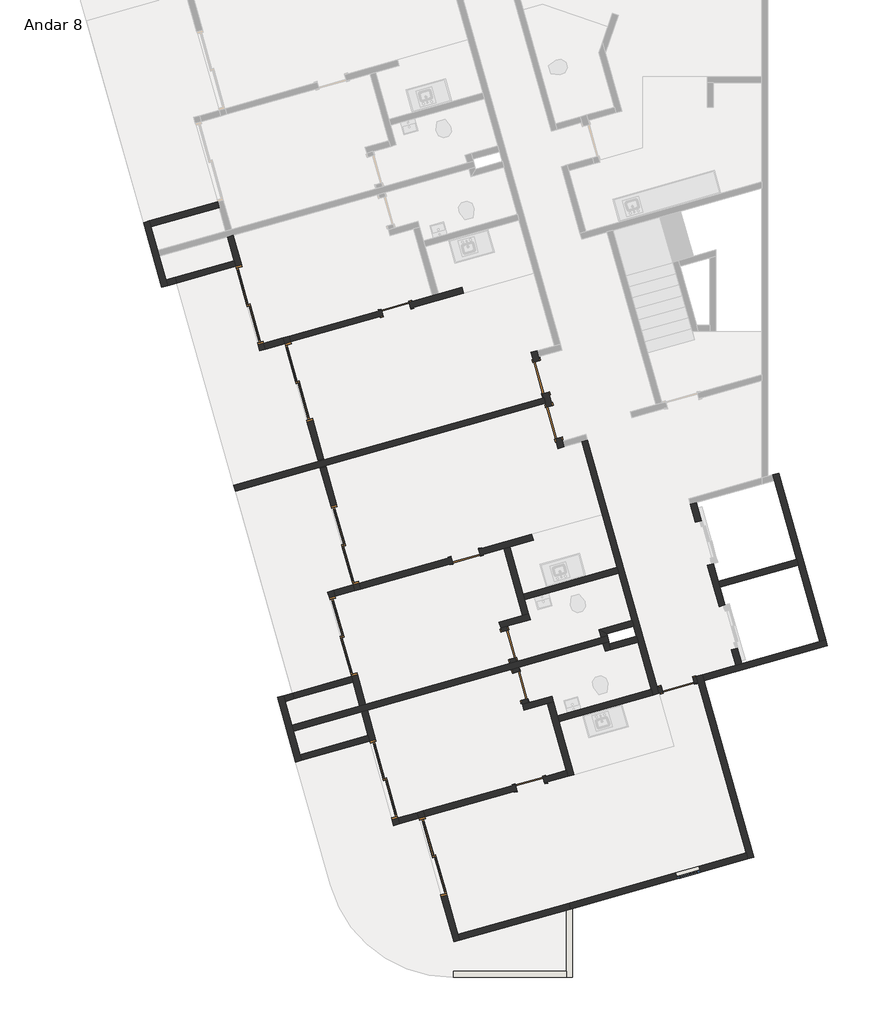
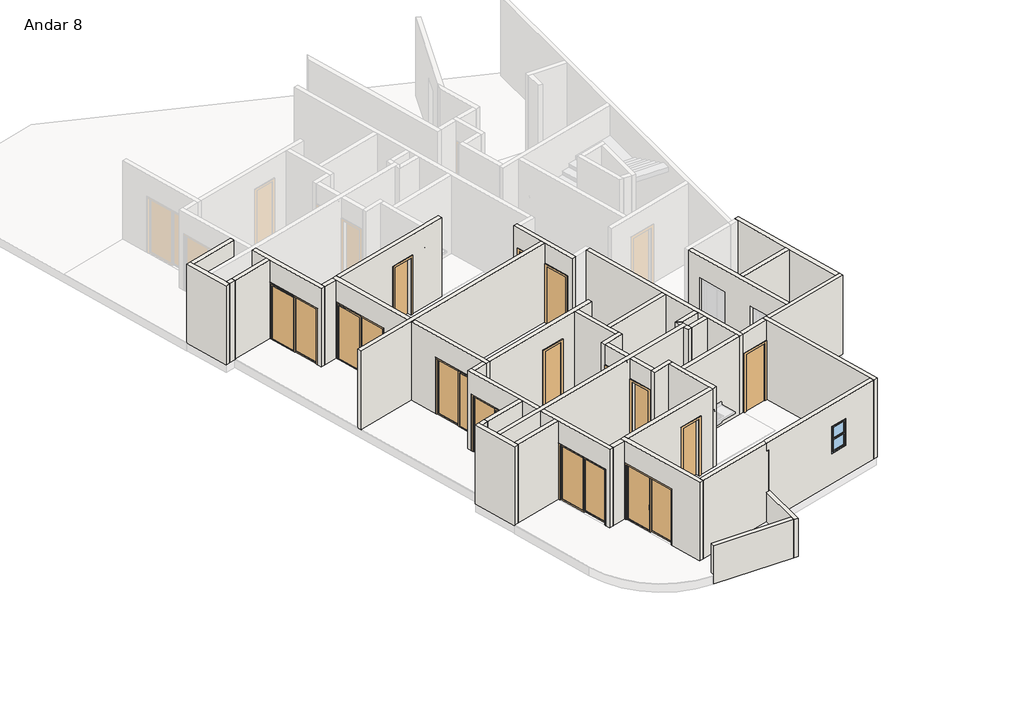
# One storey, part 1 of 3: 46 walls, 14 doors, 1 window.
"""IFC4 building model written with IfcOpenShell, lengths in millimetres."""

from ifc_helpers import new_model, si_unit, frame, origin, place, context, project, spatial, polyline, outline, extrude, faceted_brep, transform, mapped, element, save
from components import p2_80cm_9d4be4ef, p2_80cm_083652d6, p3_70cm_ef4d15e3, p3_70cm_0a698c7c, p4_correr_200cm_eaaa0877, p4_correr_200cm_830b8f20, bx_60cm_cef95a5c

model = new_model("IFC4")

# Units and contexts
model_context = context("Model", 3, world=origin())
ifc_project = project(units=[si_unit("LENGTHUNIT", "METRE", prefix="MILLI")], contexts=[model_context])

# Site, building, storey
site = spatial("IfcSite", under=ifc_project)
building = spatial("IfcBuilding", under=site)
storey = spatial("IfcBuildingStorey", under=building, Name="Andar 8", Elevation=73950.0)

# Doors
placement = place(None, origin())
p2_80cm_shape = p2_80cm_9d4be4ef(model_context)
element("IfcDoor", 1, ObjectType="M_Folha única1 : P2 - 80CM", at=placement, inside=storey, context=model_context, shape_type="MappedRepresentation", body=[
    mapped(p2_80cm_shape, transform((-80566.3456776, 19693.5423602, 73950.0), x_axis=(0.2717679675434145, -0.9623628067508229, 0.0), y_axis=(0.9623628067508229, 0.2717679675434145, 0.0), z_axis=(0.0, 0.0, 1.0))),
])
element("IfcDoor", 2, ObjectType="M_Folha única1 : P2 - 80CM", at=placement, inside=storey, context=model_context, shape_type="MappedRepresentation", body=[
    mapped(p2_80cm_shape, transform((-77213.6668366, 12144.847648, 73950.0), x_axis=(0.9623628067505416, 0.2717679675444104, 0.0), y_axis=(-0.2717679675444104, 0.9623628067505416, 0.0), z_axis=(0.0, 0.0, 1.0))),
])
p2_80cm_2_shape = p2_80cm_083652d6(model_context)
element("IfcDoor", 3, ObjectType="M_Folha única1 : P2 - 80CM", at=placement, inside=storey, context=model_context, shape_type="MappedRepresentation", body=[
    mapped(p2_80cm_2_shape, transform((-80253.8125149, 18586.8251325, 73950.0), x_axis=(-0.2717679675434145, 0.9623628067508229, 0.0), y_axis=(-0.9623628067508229, -0.2717679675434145, 0.0), z_axis=(0.0, 0.0, 1.0))),
])
p3_70cm_shape = p3_70cm_ef4d15e3(model_context)
element("IfcDoor", 4, ObjectType="M_Folha única1 : P3 - 70CM", at=placement, inside=storey, context=model_context, shape_type="MappedRepresentation", body=[
    mapped(p3_70cm_shape, transform((-84129.1775441, 21363.1168842, 73950.0), x_axis=(0.9623628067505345, 0.27176796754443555, 0.0), y_axis=(-0.27176796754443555, 0.9623628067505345, 0.0), z_axis=(0.0, 0.0, 1.0))),
])
element("IfcDoor", 5, ObjectType="M_Folha única1 : P3 - 70CM", at=placement, inside=storey, context=model_context, shape_type="MappedRepresentation", body=[
    mapped(p3_70cm_shape, transform((-80840.7851368, 9718.5269225, 73950.0), x_axis=(0.9623628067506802, 0.2717679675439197, 0.0), y_axis=(-0.2717679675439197, 0.9623628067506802, 0.0), z_axis=(0.0, 0.0, 1.0))),
])
element("IfcDoor", 6, ObjectType="M_Folha única1 : P3 - 70CM", at=placement, inside=storey, context=model_context, shape_type="MappedRepresentation", body=[
    mapped(p3_70cm_shape, transform((-81362.5862327, 13130.1209218, 73950.0), x_axis=(0.27176796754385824, -0.9623628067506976, 0.0), y_axis=(0.9623628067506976, 0.27176796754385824, 0.0), z_axis=(0.0, 0.0, 1.0))),
])
p3_70cm_2_shape = p3_70cm_0a698c7c(model_context)
element("IfcDoor", 7, ObjectType="M_Folha única1 : P3 - 70CM", at=placement, inside=storey, context=model_context, shape_type="MappedRepresentation", body=[
    mapped(p3_70cm_2_shape, transform((-81077.2298668, 12119.6399747, 73950.0), x_axis=(-0.27176796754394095, 0.9623628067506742, 0.0), y_axis=(-0.9623628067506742, -0.27176796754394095, 0.0), z_axis=(0.0, 0.0, 1.0))),
])
element("IfcDoor", 8, ObjectType="M_Folha única1 : P3 - 70CM", at=placement, inside=storey, context=model_context, shape_type="MappedRepresentation", body=[
    mapped(p3_70cm_2_shape, transform((-82417.0393485, 15300.2312016, 73950.0), x_axis=(0.9623628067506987, 0.2717679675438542, 0.0), y_axis=(-0.2717679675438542, 0.9623628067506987, 0.0), z_axis=(0.0, 0.0, 1.0))),
])
p4_correr_200cm_shape = p4_correr_200cm_eaaa0877(model_context)
element("IfcDoor", 9, ObjectType="Porta de correr dupla envidraçada sem revestimento : P4 - CORRER - 200CM", at=placement, inside=storey, context=model_context, shape_type="MappedRepresentation", body=[
    mapped(p4_correr_200cm_shape, transform((-86511.4049952, 19573.3416554, 73950.0), x_axis=(0.2717679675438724, -0.9623628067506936, 0.0), y_axis=(0.9623628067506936, 0.2717679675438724, 0.0), z_axis=(0.0, 0.0, 1.0))),
])
element("IfcDoor", 10, ObjectType="Porta de correr dupla envidraçada sem revestimento : P4 - CORRER - 200CM", at=placement, inside=storey, context=model_context, shape_type="MappedRepresentation", body=[
    mapped(p4_correr_200cm_shape, transform((-87717.4207223, 21466.8516126, 73950.0), x_axis=(0.2717679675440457, -0.9623628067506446, 0.0), y_axis=(0.9623628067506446, 0.2717679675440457, 0.0), z_axis=(0.0, 0.0, 1.0))),
])
element("IfcDoor", 11, ObjectType="Porta de correr dupla envidraçada sem revestimento : P4 - CORRER - 200CM", at=placement, inside=storey, context=model_context, shape_type="MappedRepresentation", body=[
    mapped(p4_correr_200cm_shape, transform((-84429.028315, 9822.2616509, 73950.0), x_axis=(-0.27176796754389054, 0.9623628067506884, 0.0), y_axis=(-0.9623628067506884, -0.27176796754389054, 0.0), z_axis=(0.0, 0.0, 1.0))),
])
element("IfcDoor", 12, ObjectType="Porta de correr dupla envidraçada sem revestimento : P4 - CORRER - 200CM", at=placement, inside=storey, context=model_context, shape_type="MappedRepresentation", body=[
    mapped(p4_correr_200cm_shape, transform((-83223.012588, 7928.7516937, 73950.0), x_axis=(-0.2717679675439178, 0.9623628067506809, 0.0), y_axis=(-0.9623628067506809, -0.2717679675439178, 0.0), z_axis=(0.0, 0.0, 1.0))),
])
p4_correr_200cm_2_shape = p4_correr_200cm_830b8f20(model_context)
element("IfcDoor", 13, ObjectType="Porta de correr dupla envidraçada sem revestimento : P4 - CORRER - 200CM", at=placement, inside=storey, context=model_context, shape_type="MappedRepresentation", body=[
    mapped(p4_correr_200cm_2_shape, transform((-85383.5679299, 15579.5360073, 73950.0), x_axis=(-0.2717679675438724, 0.9623628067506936, 0.0), y_axis=(-0.9623628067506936, -0.2717679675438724, 0.0), z_axis=(0.0, 0.0, 1.0))),
])
element("IfcDoor", 14, ObjectType="Porta de correr dupla envidraçada sem revestimento : P4 - CORRER - 200CM", at=placement, inside=storey, context=model_context, shape_type="MappedRepresentation", body=[
    mapped(p4_correr_200cm_2_shape, transform((-85420.9813965, 13334.8858955, 73950.0), x_axis=(-0.27176796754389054, 0.9623628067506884, 0.0), y_axis=(-0.9623628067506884, -0.27176796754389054, 0.0), z_axis=(0.0, 0.0, 1.0))),
])

# Walls
element("IfcWall", 15, ObjectType="Básica .15 - Externa", at=placement, inside=storey, context=model_context, shape_type="Brep", body=[
    faceted_brep([(-75344.9919691, 7919.3931149, 73950.0), (-76567.7484146, 12249.3196164, 73950.0), (-76608.5136097, 12393.6740374, 73950.0), (-76608.5136097, 12393.6740374, 76850.0), (-76567.7484146, 12249.3196164, 76850.0), (-75344.9919691, 7919.3931149, 76850.0), (-75489.3463901, 7878.6279198, 73950.0), (-75489.3463901, 7878.6279198, 76850.0), (-75530.1115852, 8022.9823408, 76850.0), (-76712.1028356, 12208.5544213, 76850.0), (-76752.8680308, 12352.9088423, 76850.0), (-76752.8680308, 12352.9088423, 73950.0), (-76712.1028356, 12208.5544213, 73950.0), (-75530.1115852, 8022.9823408, 73950.0)], [[[0, 1, 2, 3, 4, 5]], [[6, 7, 8, 9, 10, 11, 12, 13]], [[2, 1, 0, 6, 13, 12, 11]], [[5, 4, 3, 10, 9, 8, 7]], [[0, 5, 7, 6]], [[3, 2, 11, 10]]]),
])
element("IfcWall", 16, ObjectType="Básica .15 -  Interna", at=placement, inside=storey, context=model_context, shape_type="Brep", body=[
    faceted_brep([(-80529.815701, 19288.21464, 73950.0), (-80502.6389043, 19191.9783593, 73950.0), (-80461.8737092, 19047.6239383, 73950.0), (-80434.6969124, 18951.3876576, 73950.0), (-80434.6969124, 18951.3876576, 76050.0), (-80217.2825384, 18181.4974122, 76050.0), (-80217.2825384, 18181.4974122, 73950.0), (-80149.3405465, 17940.9067105, 73950.0), (-80149.3405465, 17940.9067105, 76850.0), (-80461.8737092, 19047.6239383, 76850.0), (-80502.6389043, 19191.9783593, 76850.0), (-80815.172067, 20298.695587, 76850.0), (-80815.172067, 20298.695587, 73950.0), (-80747.2300751, 20058.1048854, 73950.0), (-80747.2300751, 20058.1048854, 76050.0), (-80529.815701, 19288.21464, 76050.0), (-80290.3424914, 18992.1528527, 76050.0), (-80290.3424914, 18992.1528527, 73950.0), (-80385.46128, 19328.9798351, 73950.0), (-80385.46128, 19328.9798351, 76050.0), (-80602.8756541, 20098.8700805, 76050.0), (-80602.8756541, 20098.8700805, 73950.0), (-80630.0524508, 20195.1063612, 73950.0), (-80670.817646, 20339.4607822, 73950.0), (-80670.817646, 20339.4607822, 76850.0), (-80630.0524508, 20195.1063612, 76850.0), (-80045.7513206, 18126.0263266, 76850.0), (-80004.9861255, 17981.6719056, 76850.0), (-80004.9861255, 17981.6719056, 73950.0), (-80045.7513206, 18126.0263266, 73950.0), (-80072.9281174, 18222.2626073, 73950.0), (-80072.9281174, 18222.2626073, 76050.0)], [[[0, 1, 2, 3, 4, 5, 6, 7, 8, 9, 10, 11, 12, 13, 14, 15]], [[16, 17, 18, 19, 20, 21, 22, 23, 24, 25, 26, 27, 28, 29, 30, 31]], [[13, 12, 23, 22, 21]], [[18, 17, 3, 2, 1, 0]], [[30, 29, 28, 7, 6]], [[11, 10, 9, 8, 27, 26, 25, 24]], [[12, 11, 24, 23]], [[8, 7, 28, 27]], [[19, 18, 0, 15]], [[20, 19, 15, 14]], [[21, 20, 14, 13]], [[4, 3, 17, 16]], [[5, 4, 16, 31]], [[6, 5, 31, 30]]]),
])
element("IfcWall", 17, ObjectType="Básica .15 -  Interna", at=placement, inside=storey, context=model_context, shape_type="Brep", body=[
    faceted_brep([(-79571.9228624, 18103.967491, 73950.0), (-78702.2653663, 15024.4065094, 73950.0), (-78661.5001712, 14880.0520884, 73950.0), (-78335.3786101, 13725.2167203, 73950.0), (-78294.613415, 13580.8622993, 73950.0), (-78226.6714231, 13340.2715976, 73950.0), (-78185.906228, 13195.9171766, 73950.0), (-77818.8200634, 11896.0212586, 73950.0), (-77818.8200634, 11896.0212586, 76850.0), (-78185.906228, 13195.9171766, 76850.0), (-78226.6714231, 13340.2715976, 76850.0), (-78294.613415, 13580.8622993, 76850.0), (-78335.3786101, 13725.2167203, 76850.0), (-78661.5001712, 14880.0520884, 76850.0), (-78702.2653663, 15024.4065094, 76850.0), (-79571.9228624, 18103.967491, 76850.0), (-79427.5684414, 18144.7326862, 73950.0), (-79427.5684414, 18144.7326862, 76850.0), (-77715.2308375, 12081.1408747, 76850.0), (-77674.4656424, 11936.7864537, 76850.0), (-77674.4656424, 11936.7864537, 73950.0), (-77715.2308375, 12081.1408747, 73950.0)], [[[0, 1, 2, 3, 4, 5, 6, 7, 8, 9, 10, 11, 12, 13, 14, 15]], [[16, 17, 18, 19, 20, 21]], [[7, 6, 5, 4, 3, 2, 1, 0, 16, 21, 20]], [[15, 14, 13, 12, 11, 10, 9, 8, 19, 18, 17]], [[0, 15, 17, 16]], [[8, 7, 20, 19]]]),
])
element("IfcWall", 18, ObjectType="Básica .15 -  Interna", at=placement, inside=storey, context=model_context, shape_type="Brep", body=[
    faceted_brep([(-85017.5646639, 11630.3683862, 76850.0), (-85180.6254444, 12207.7860702, 76850.0), (-85221.3906395, 12352.1404912, 76850.0), (-85805.6917697, 14421.2205257, 76850.0), (-85805.6917697, 14421.2205257, 73950.0), (-85764.9265746, 14276.8661047, 73950.0), (-85764.9265746, 14276.8661047, 76050.0), (-85221.3906395, 12352.1404912, 76050.0), (-85221.3906395, 12352.1404912, 73950.0), (-85180.6254444, 12207.7860702, 73950.0), (-85017.5646639, 11630.3683862, 73950.0), (-85661.3373487, 14461.9857209, 76850.0), (-85620.5721536, 14317.6312998, 76850.0), (-84873.2102428, 11671.1335813, 76850.0), (-84873.2102428, 11671.1335813, 73950.0), (-85077.0362185, 12392.9056863, 73950.0), (-85077.0362185, 12392.9056863, 76050.0), (-85620.5721536, 14317.6312998, 76050.0), (-85620.5721536, 14317.6312998, 73950.0), (-85661.3373487, 14461.9857209, 73950.0)], [[[0, 1, 2, 3, 4, 5, 6, 7, 8, 9, 10]], [[11, 12, 13, 14, 15, 16, 17, 18, 19]], [[4, 19, 18, 5]], [[14, 10, 9, 8, 15]], [[3, 2, 1, 0, 13, 12, 11]], [[4, 3, 11, 19]], [[0, 10, 14, 13]], [[17, 6, 5, 18]], [[6, 17, 16, 7]], [[7, 16, 15, 8]]]),
])
element("IfcWall", 19, ObjectType="Básica .15 -  Interna", at=placement, inside=storey, context=model_context, shape_type="Brep", body=[
    faceted_brep([(-82710.8886682, 5839.2890616, 76850.0), (-83566.957766, 8870.7319029, 76850.0), (-83607.7229611, 9015.0863239, 76850.0), (-83607.7229611, 9015.0863239, 73950.0), (-83566.957766, 8870.7319029, 73950.0), (-83566.957766, 8870.7319029, 76050.0), (-83023.4218309, 6946.0062894, 76050.0), (-83023.4218309, 6946.0062894, 73950.0), (-82710.8886682, 5839.2890616, 73950.0), (-83463.3685401, 9055.851519, 76850.0), (-83422.603345, 8911.497098, 76850.0), (-82607.2994424, 6024.4086777, 76850.0), (-82566.5342472, 5880.0542567, 76850.0), (-82566.5342472, 5880.0542567, 73950.0), (-82607.2994424, 6024.4086777, 73950.0), (-82879.0674099, 6986.7714845, 73950.0), (-82879.0674099, 6986.7714845, 76050.0), (-83422.603345, 8911.497098, 76050.0), (-83422.603345, 8911.497098, 73950.0), (-83463.3685401, 9055.851519, 73950.0)], [[[0, 1, 2, 3, 4, 5, 6, 7, 8]], [[9, 10, 11, 12, 13, 14, 15, 16, 17, 18, 19]], [[3, 19, 18, 4]], [[13, 8, 7, 15, 14]], [[2, 1, 0, 12, 11, 10, 9]], [[3, 2, 9, 19]], [[0, 8, 13, 12]], [[17, 5, 4, 18]], [[5, 17, 16, 6]], [[6, 16, 15, 7]]]),
])
element("IfcWall", 20, ObjectType="Básica .15 -  Interna", at=placement, inside=storey, context=model_context, shape_type="Brep", body=[
    faceted_brep([(-86046.8404698, 17652.2925145, 73950.0), (-86046.8404698, 17652.2925145, 76850.0), (-86855.3501733, 20515.3218646, 76850.0), (-86896.1153684, 20659.6762856, 76850.0), (-86896.1153684, 20659.6762856, 73950.0), (-86855.3501733, 20515.3218646, 73950.0), (-86855.3501733, 20515.3218646, 76050.0), (-86311.8142382, 18590.596251, 76050.0), (-86311.8142382, 18590.596251, 73950.0), (-85902.4860488, 17693.0577096, 76850.0), (-85902.4860488, 17693.0577096, 73950.0), (-86167.4598172, 18631.3614462, 73950.0), (-86167.4598172, 18631.3614462, 76050.0), (-86710.9957523, 20556.0870597, 76050.0), (-86710.9957523, 20556.0870597, 73950.0), (-86751.7609474, 20700.4414807, 73950.0), (-86751.7609474, 20700.4414807, 76850.0), (-86710.9957523, 20556.0870597, 76850.0)], [[[0, 1, 2, 3, 4, 5, 6, 7, 8]], [[9, 10, 11, 12, 13, 14, 15, 16, 17]], [[10, 0, 8, 11]], [[4, 15, 14, 5]], [[1, 0, 10, 9]], [[3, 2, 1, 9, 17, 16]], [[4, 3, 16, 15]], [[7, 12, 11, 8]], [[12, 7, 6, 13]], [[13, 6, 5, 14]]]),
])
element("IfcWall", 21, ObjectType="Básica .15 - Externa", at=placement, inside=storey, context=model_context, shape_type="Brep", body=[
    faceted_brep([(-79945.4990038, 6620.2256515, 75050.0), (-79945.4990038, 6620.2256515, 73950.0), (-79945.4990038, 6620.2256515, 73650.0), (-79945.4990038, 5119.4122055, 73650.0), (-79945.4990038, 4969.4122055, 73650.0), (-79945.4990038, 4969.4122055, 75050.0), (-79945.4990038, 5119.4122055, 75050.0), (-79795.4990038, 6662.5851389, 73650.0), (-79795.4990038, 6662.5851389, 75050.0), (-79795.4990038, 4969.4122055, 75050.0), (-79795.4990038, 4969.4122055, 73650.0), (-79850.1164062, 6647.1613711, 73650.0)], [[[0, 1, 2, 3, 4, 5, 6]], [[7, 8, 9, 10]], [[4, 3, 2, 11, 7, 10]], [[0, 6, 5, 9, 8]], [[5, 4, 10, 9]], [[0, 8, 7, 11, 2, 1]]]),
])
element("IfcWall", 22, ObjectType="Básica .15 - Externa", at=placement, inside=storey, context=model_context, shape_type="SweptSolid", body=[
    extrude(outline(polyline([(-82713.5540687, 5119.4122055), (-79945.4990038, 5119.4122055), (-79945.4990038, 4969.4122055), (-82713.5540687, 4969.4122055), (-82713.5540687, 5119.4122055)])), frame((0.0, 0.0, 73650.0), z_axis=(0.0, 0.0, 1.0), x_axis=(1.0, 0.0, 0.0)), (0.0, 0.0, 1.0), 1400.0),
])
element("IfcWall", 23, ObjectType="Básica .15 - Externa", at=placement, inside=storey, context=model_context, shape_type="Brep", body=[
    faceted_brep([(-73581.8825825, 13248.3842954, 73950.0), (-73726.2370035, 13207.6191002, 73950.0), (-75646.150803, 12665.442005, 73950.0), (-75790.505224, 12624.6768098, 73950.0), (-76608.5136097, 12393.6740374, 73950.0), (-76608.5136097, 12393.6740374, 76850.0), (-75790.505224, 12624.6768098, 76850.0), (-75646.150803, 12665.442005, 76850.0), (-73726.2370035, 13207.6191002, 76850.0), (-73581.8825825, 13248.3842954, 76850.0), (-73541.1173874, 13104.0298743, 73950.0), (-73541.1173874, 13104.0298743, 76850.0), (-76567.7484146, 12249.3196164, 76850.0), (-76567.7484146, 12249.3196164, 73950.0)], [[[0, 1, 2, 3, 4, 5, 6, 7, 8, 9]], [[10, 11, 12, 13]], [[4, 3, 2, 1, 0, 10, 13]], [[9, 8, 7, 6, 5, 12, 11]], [[0, 9, 11, 10]], [[5, 4, 13, 12]]]),
])
element("IfcWall", 24, ObjectType="Básica .15 - Externa", at=placement, inside=storey, context=model_context, shape_type="Brep", body=[
    faceted_brep([(-74881.2508656, 17297.6610289, 73950.0), (-74840.4856705, 17153.3066079, 73950.0), (-74296.9497354, 15228.5809944, 73950.0), (-74256.1845402, 15084.2265734, 73950.0), (-73726.2370035, 13207.6191002, 73950.0), (-73726.2370035, 13207.6191002, 76850.0), (-74256.1845402, 15084.2265734, 76850.0), (-74296.9497354, 15228.5809944, 76850.0), (-74840.4856705, 17153.3066079, 76850.0), (-74881.2508656, 17297.6610289, 76850.0), (-74736.8964446, 17338.426224, 73950.0), (-74736.8964446, 17338.426224, 76850.0), (-73581.8825825, 13248.3842954, 76850.0), (-73581.8825825, 13248.3842954, 73950.0)], [[[0, 1, 2, 3, 4, 5, 6, 7, 8, 9]], [[10, 11, 12, 13]], [[4, 3, 2, 1, 0, 10, 13]], [[9, 8, 7, 6, 5, 12, 11]], [[0, 9, 11, 10]], [[5, 4, 13, 12]]]),
])
element("IfcWall", 25, ObjectType="Básica .15 -  Interna", at=placement, inside=storey, context=model_context, shape_type="Brep", body=[
    faceted_brep([(-76483.167581, 15077.4768805, 73950.0), (-76197.8112151, 14066.9959334, 73950.0), (-76197.8112151, 14066.9959334, 76075.0), (-75898.8664508, 13008.396846, 76075.0), (-75898.8664508, 13008.396846, 73950.0), (-75790.505224, 12624.6768098, 73950.0), (-75790.505224, 12624.6768098, 76850.0), (-76904.7538909, 16570.3643175, 76850.0), (-76904.7538909, 16570.3643175, 73950.0), (-76782.1123453, 16136.075968, 73950.0), (-76782.1123453, 16136.075968, 76075.0), (-76483.167581, 15077.4768805, 76075.0), (-76053.4567941, 14107.7611286, 76075.0), (-76053.4567941, 14107.7611286, 73950.0), (-76176.0983397, 14542.0494781, 73950.0), (-76216.8635348, 14686.4038991, 73950.0), (-76338.81316, 15118.2420757, 73950.0), (-76338.81316, 15118.2420757, 76075.0), (-76637.7579243, 16176.8411631, 76075.0), (-76637.7579243, 16176.8411631, 73950.0), (-76760.3994699, 16611.1295126, 73950.0), (-76760.3994699, 16611.1295126, 76850.0), (-76216.8635348, 14686.4038991, 76850.0), (-76176.0983397, 14542.0494781, 76850.0), (-75646.150803, 12665.442005, 76850.0), (-75646.150803, 12665.442005, 73950.0), (-75754.5120298, 13049.1620412, 73950.0), (-75754.5120298, 13049.1620412, 76075.0)], [[[0, 1, 2, 3, 4, 5, 6, 7, 8, 9, 10, 11]], [[12, 13, 14, 15, 16, 17, 18, 19, 20, 21, 22, 23, 24, 25, 26, 27]], [[9, 8, 20, 19]], [[26, 25, 5, 4]], [[16, 15, 14, 13, 1, 0]], [[7, 6, 24, 23, 22, 21]], [[8, 7, 21, 20]], [[6, 5, 25, 24]], [[4, 3, 27, 26]], [[2, 1, 13, 12]], [[3, 2, 12, 27]], [[19, 18, 10, 9]], [[17, 16, 0, 11]], [[18, 17, 11, 10]]]),
])
element("IfcWall", 26, ObjectType="Básica .15 -  Interna", at=placement, inside=storey, context=model_context, shape_type="SweptSolid", body=[
    extrude(outline(polyline([(-74256.1845402, 15084.2265734), (-76176.0983397, 14542.0494781), (-76216.8635348, 14686.4038991), (-74296.9497354, 15228.5809944), (-74256.1845402, 15084.2265734)])), frame((0.0, 0.0, 73950.0), z_axis=(0.0, 0.0, 1.0), x_axis=(1.0, 0.0, 0.0)), (0.0, 0.0, 1.0), 2900.0),
])
element("IfcWall", 27, ObjectType="Básica .15 -  Interna", at=placement, inside=storey, context=model_context, shape_type="Brep", body=[
    faceted_brep([(-82566.5342472, 5880.0542567, 73950.0), (-79945.4990038, 6620.2256515, 73950.0), (-79850.1164062, 6647.1613711, 73950.0), (-79850.1164062, 6647.1613711, 76550.0), (-79945.4990038, 6620.2256515, 76550.0), (-79945.4990038, 6620.2256515, 76850.0), (-82566.5342472, 5880.0542567, 76850.0), (-82607.2994424, 6024.4086777, 73950.0), (-82607.2994424, 6024.4086777, 76850.0), (-79945.4990038, 6776.0920243, 76850.0), (-79945.4990038, 6776.0920243, 76550.0), (-79890.8816014, 6791.5157921, 76550.0), (-79890.8816014, 6791.5157921, 73950.0), (-79945.4990038, 6776.0920243, 73950.0)], [[[0, 1, 2, 3, 4, 5, 6]], [[7, 8, 9, 10, 11, 12, 13]], [[2, 1, 0, 7, 13, 12]], [[6, 5, 9, 8]], [[0, 6, 8, 7]], [[2, 12, 11, 3]], [[10, 4, 3, 11]], [[5, 4, 10, 9]]]),
])
element("IfcWall", 28, ObjectType="Básica .15 -  Interna", at=placement, inside=storey, context=model_context, shape_type="Brep", body=[
    faceted_brep([(-85221.3906395, 12352.1404912, 73950.0), (-86668.7560772, 11943.4094383, 73950.0), (-86668.7560772, 11943.4094383, 76850.0), (-85221.3906395, 12352.1404912, 76850.0), (-85221.3906395, 12352.1404912, 76050.0), (-85180.6254444, 12207.7860702, 73950.0), (-85180.6254444, 12207.7860702, 76850.0), (-86627.9908821, 11799.0550173, 76850.0), (-86627.9908821, 11799.0550173, 73950.0)], [[[0, 1, 2, 3, 4]], [[5, 6, 7, 8]], [[1, 0, 5, 8]], [[2, 1, 8, 7]], [[3, 2, 7, 6]], [[0, 4, 3, 6, 5]]]),
])
element("IfcWall", 29, ObjectType="Básica .15 - Externa", at=placement, inside=storey, context=model_context, shape_type="Brep", body=[
    faceted_brep([(-86444.4738537, 10292.215871, 73950.0), (-86485.2390488, 10436.570292, 73950.0), (-86648.2998293, 11013.987976, 73950.0), (-86689.0650245, 11158.342397, 73950.0), (-86852.125805, 11735.7600811, 73950.0), (-86892.8910001, 11880.1145021, 73950.0), (-86892.8910001, 11880.1145021, 76850.0), (-86852.125805, 11735.7600811, 76850.0), (-86689.0650245, 11158.342397, 76850.0), (-86648.2998293, 11013.987976, 76850.0), (-86485.2390488, 10436.570292, 76850.0), (-86444.4738537, 10292.215871, 76850.0), (-86588.8282747, 10251.4506758, 73950.0), (-86588.8282747, 10251.4506758, 76850.0), (-87037.2454211, 11839.349307, 76850.0), (-87037.2454211, 11839.349307, 73950.0)], [[[0, 1, 2, 3, 4, 5, 6, 7, 8, 9, 10, 11]], [[12, 13, 14, 15]], [[5, 4, 3, 2, 1, 0, 12, 15]], [[11, 10, 9, 8, 7, 6, 14, 13]], [[6, 5, 15, 14]], [[0, 11, 13, 12]]]),
])
element("IfcWall", 30, ObjectType="Básica .15 -  Interna", at=placement, inside=storey, context=model_context, shape_type="Brep", body=[
    faceted_brep([(-86444.4738537, 10292.215871, 73950.0), (-84772.9734931, 10764.2418601, 73950.0), (-84772.9734931, 10764.2418601, 76050.0), (-84772.9734931, 10764.2418601, 76850.0), (-86444.4738537, 10292.215871, 76850.0), (-86485.2390488, 10436.570292, 73950.0), (-86485.2390488, 10436.570292, 76850.0), (-84813.7386882, 10908.5962811, 76850.0), (-84813.7386882, 10908.5962811, 73950.0)], [[[0, 1, 2, 3, 4]], [[5, 6, 7, 8]], [[1, 0, 5, 8]], [[4, 3, 7, 6]], [[0, 4, 6, 5]], [[3, 2, 1, 8, 7]]]),
])
element("IfcWall", 31, ObjectType="Básica .15 - Externa", at=placement, inside=storey, context=model_context, shape_type="Brep", body=[
    faceted_brep([(-89732.866261, 21936.8058326, 73950.0), (-89773.6314561, 22081.1602536, 73950.0), (-89936.6922366, 22658.5779377, 73950.0), (-89977.4574318, 22802.9323587, 73950.0), (-90140.5182123, 23380.3500428, 73950.0), (-90181.2834074, 23524.7044638, 73950.0), (-90181.2834074, 23524.7044638, 76850.0), (-90140.5182123, 23380.3500428, 76850.0), (-89977.4574318, 22802.9323587, 76850.0), (-89936.6922366, 22658.5779377, 76850.0), (-89773.6314561, 22081.1602536, 76850.0), (-89732.866261, 21936.8058326, 76850.0), (-89877.220682, 21896.0406375, 73950.0), (-89877.220682, 21896.0406375, 76850.0), (-90325.6378284, 23483.9392686, 76850.0), (-90325.6378284, 23483.9392686, 73950.0)], [[[0, 1, 2, 3, 4, 5, 6, 7, 8, 9, 10, 11]], [[12, 13, 14, 15]], [[5, 4, 3, 2, 1, 0, 12, 15]], [[11, 10, 9, 8, 7, 6, 14, 13]], [[0, 11, 13, 12]], [[6, 5, 15, 14]]]),
])
element("IfcWall", 32, ObjectType="Básica .15 -  Interna", at=placement, inside=storey, context=model_context, shape_type="Brep", body=[
    faceted_brep([(-88102.1310955, 22553.1862428, 73950.0), (-89549.4965332, 22144.4551899, 73950.0), (-89549.4965332, 22144.4551899, 76850.0), (-88102.1310955, 22553.1862428, 76850.0), (-88061.3659003, 22408.8318218, 73950.0), (-88061.3659003, 22408.8318218, 76050.0), (-88061.3659003, 22408.8318218, 76850.0), (-89508.731338, 22000.1007688, 76850.0), (-89508.731338, 22000.1007688, 73950.0)], [[[0, 1, 2, 3]], [[4, 5, 6, 7, 8]], [[1, 0, 4, 8]], [[2, 1, 8, 7]], [[3, 2, 7, 6]], [[0, 3, 6, 5, 4]]]),
])
element("IfcWall", 33, ObjectType="Básica .15 -  Interna", at=placement, inside=storey, context=model_context, shape_type="Brep", body=[
    faceted_brep([(-90140.5182123, 23380.3500428, 73950.0), (-88469.0178517, 23852.3760319, 73950.0), (-88469.0178517, 23852.3760319, 76850.0), (-90140.5182123, 23380.3500428, 76850.0), (-90181.2834074, 23524.7044638, 73950.0), (-90181.2834074, 23524.7044638, 76850.0), (-88509.7830468, 23996.7304529, 76850.0), (-88509.7830468, 23996.7304529, 76050.0), (-88509.7830468, 23996.7304529, 73950.0)], [[[0, 1, 2, 3]], [[4, 5, 6, 7, 8]], [[1, 0, 4, 8]], [[3, 2, 6, 5]], [[0, 3, 5, 4]], [[2, 1, 8, 7, 6]]]),
])
element("IfcWall", 34, ObjectType="Básica .15 -  Interna", at=placement, inside=storey, context=model_context, shape_type="Brep", body=[
    faceted_brep([(-86896.1153684, 20659.6762856, 73950.0), (-87373.4755442, 20524.8714034, 73950.0), (-87373.4755442, 20524.8714034, 76050.0), (-87373.4755442, 20524.8714034, 76850.0), (-86896.1153684, 20659.6762856, 76850.0), (-86855.3501733, 20515.3218646, 73950.0), (-86855.3501733, 20515.3218646, 76050.0), (-86855.3501733, 20515.3218646, 76850.0), (-87332.7103491, 20380.5169824, 76850.0), (-87332.7103491, 20380.5169824, 73950.0)], [[[0, 1, 2, 3, 4]], [[5, 6, 7, 8, 9]], [[1, 0, 5, 9]], [[4, 3, 8, 7]], [[0, 4, 7, 6, 5]], [[3, 2, 1, 9, 8]]]),
])
element("IfcWall", 35, ObjectType="Básica .15 -  Interna", at=placement, inside=storey, context=model_context, shape_type="Brep", body=[
    faceted_brep([(-83607.7229611, 9015.0863239, 73950.0), (-84085.083137, 8880.2814417, 73950.0), (-84085.083137, 8880.2814417, 76050.0), (-84085.083137, 8880.2814417, 76850.0), (-83607.7229611, 9015.0863239, 76850.0), (-83566.957766, 8870.7319029, 73950.0), (-83566.957766, 8870.7319029, 76050.0), (-83566.957766, 8870.7319029, 76850.0), (-84044.3179418, 8735.9270207, 76850.0), (-84044.3179418, 8735.9270207, 73950.0)], [[[0, 1, 2, 3, 4]], [[5, 6, 7, 8, 9]], [[1, 0, 5, 9]], [[4, 3, 8, 7]], [[3, 2, 1, 9, 8]], [[0, 4, 7, 6, 5]]]),
])
element("IfcWall", 36, ObjectType="Básica .15 -  Interna", at=placement, inside=storey, context=model_context, shape_type="Brep", body=[
    faceted_brep([(-85183.9771729, 14596.790603, 73950.0), (-85661.3373487, 14461.9857209, 73950.0), (-85661.3373487, 14461.9857209, 76850.0), (-85183.9771729, 14596.790603, 76850.0), (-85183.9771729, 14596.790603, 76050.0), (-85143.2119778, 14452.436182, 73950.0), (-85143.2119778, 14452.436182, 76850.0), (-85620.5721536, 14317.6312998, 76850.0), (-85620.5721536, 14317.6312998, 76050.0), (-85620.5721536, 14317.6312998, 73950.0)], [[[0, 1, 2, 3, 4]], [[5, 6, 7, 8, 9]], [[1, 0, 5, 9]], [[3, 2, 7, 6]], [[2, 1, 9, 8, 7]], [[0, 4, 3, 6, 5]]]),
])
element("IfcWall", 37, ObjectType="Básica .15 -  Interna", at=placement, inside=storey, context=model_context, shape_type="Brep", body=[
    faceted_brep([(-87477.0647701, 20339.7517872, 76850.0), (-88061.3659003, 22408.8318218, 76850.0), (-88102.1310955, 22553.1862428, 76850.0), (-88265.191876, 23130.6039268, 76850.0), (-88265.191876, 23130.6039268, 73950.0), (-88102.1310955, 22553.1862428, 73950.0), (-88061.3659003, 22408.8318218, 73950.0), (-88061.3659003, 22408.8318218, 76050.0), (-87517.8299653, 20484.1062083, 76050.0), (-87517.8299653, 20484.1062083, 73950.0), (-87477.0647701, 20339.7517872, 73950.0), (-88120.837455, 23171.369122, 76850.0), (-87373.4755442, 20524.8714034, 76850.0), (-87332.7103491, 20380.5169824, 76850.0), (-87332.7103491, 20380.5169824, 73950.0), (-87373.4755442, 20524.8714034, 73950.0), (-87373.4755442, 20524.8714034, 76050.0), (-87917.0114793, 22449.5970169, 76050.0), (-87917.0114793, 22449.5970169, 73950.0), (-88120.837455, 23171.369122, 73950.0)], [[[0, 1, 2, 3, 4, 5, 6, 7, 8, 9, 10]], [[11, 12, 13, 14, 15, 16, 17, 18, 19]], [[14, 10, 9, 15]], [[4, 19, 18, 6, 5]], [[3, 2, 1, 0, 13, 12, 11]], [[0, 10, 14, 13]], [[4, 3, 11, 19]], [[8, 16, 15, 9]], [[16, 8, 7, 17]], [[17, 7, 6, 18]]]),
])
element("IfcWall", 38, ObjectType="Básica .15 -  Interna", at=placement, inside=storey, context=model_context, shape_type="Brep", body=[
    faceted_brep([(-85143.2119778, 14452.436182, 76850.0), (-85183.9771729, 14596.790603, 76850.0), (-85992.4868763, 17459.8199531, 76850.0), (-85992.4868763, 17459.8199531, 73950.0), (-85727.513108, 16521.5162165, 73950.0), (-85727.513108, 16521.5162165, 76050.0), (-85183.9771729, 14596.790603, 76050.0), (-85183.9771729, 14596.790603, 73950.0), (-85143.2119778, 14452.436182, 73950.0), (-85848.1324553, 17500.5851482, 76850.0), (-85039.6227519, 14637.5557982, 76850.0), (-84998.8575568, 14493.2013772, 76850.0), (-84998.8575568, 14493.2013772, 73950.0), (-85039.6227519, 14637.5557982, 73950.0), (-85039.6227519, 14637.5557982, 76050.0), (-85583.158687, 16562.2814117, 76050.0), (-85583.158687, 16562.2814117, 73950.0), (-85848.1324553, 17500.5851482, 73950.0)], [[[0, 1, 2, 3, 4, 5, 6, 7, 8]], [[9, 10, 11, 12, 13, 14, 15, 16, 17]], [[3, 17, 16, 4]], [[12, 8, 7, 13]], [[2, 1, 0, 11, 10, 9]], [[3, 2, 9, 17]], [[0, 8, 12, 11]], [[15, 5, 4, 16]], [[5, 15, 14, 6]], [[6, 14, 13, 7]]]),
])
element("IfcWall", 39, ObjectType="Básica .15 -  Interna", at=placement, inside=storey, context=model_context, shape_type="SweptSolid", body=[
    extrude(outline(polyline([(-80461.8737092, 19047.6239383), (-88068.36111, 16899.5778931), (-88109.1263052, 17043.9323141), (-80502.6389043, 19191.9783593), (-80461.8737092, 19047.6239383)])), frame((0.0, 0.0, 73950.0), z_axis=(0.0, 0.0, 1.0), x_axis=(1.0, 0.0, 0.0)), (0.0, 0.0, 1.0), 2900.0),
])
element("IfcWall", 40, ObjectType="Básica .15 -  Interna", at=placement, inside=storey, context=model_context, shape_type="Brep", body=[
    faceted_brep([(-78945.0553533, 13345.2242614, 73950.0), (-81168.1134369, 12717.4402563, 73950.0), (-81312.4678579, 12676.6750612, 73950.0), (-84873.2102428, 11671.1335813, 73950.0), (-85017.5646639, 11630.3683862, 73950.0), (-86689.0650245, 11158.342397, 73950.0), (-86689.0650245, 11158.342397, 76850.0), (-85017.5646639, 11630.3683862, 76850.0), (-84873.2102428, 11671.1335813, 76850.0), (-81312.4678579, 12676.6750612, 76850.0), (-81168.1134369, 12717.4402563, 76850.0), (-78945.0553533, 13345.2242614, 76850.0), (-78904.2901581, 13200.8698403, 73950.0), (-78904.2901581, 13200.8698403, 76850.0), (-81127.3482417, 12573.0858353, 76850.0), (-81271.7026627, 12532.3206402, 76850.0), (-84832.4450477, 11526.7791603, 76850.0), (-84976.7994687, 11486.0139651, 76850.0), (-86648.2998293, 11013.987976, 76850.0), (-86648.2998293, 11013.987976, 73950.0), (-84976.7994687, 11486.0139651, 73950.0), (-84832.4450477, 11526.7791603, 73950.0), (-81271.7026627, 12532.3206402, 73950.0), (-81127.3482417, 12573.0858353, 73950.0)], [[[0, 1, 2, 3, 4, 5, 6, 7, 8, 9, 10, 11]], [[12, 13, 14, 15, 16, 17, 18, 19, 20, 21, 22, 23]], [[5, 4, 3, 2, 1, 0, 12, 23, 22, 21, 20, 19]], [[11, 10, 9, 8, 7, 6, 18, 17, 16, 15, 14, 13]], [[0, 11, 13, 12]], [[6, 5, 19, 18]]]),
])
element("IfcWall", 41, ObjectType="Básica .15 -  Interna", at=placement, inside=storey, context=model_context, shape_type="Brep", body=[
    faceted_brep([(-84188.6723628, 8695.1618256, 76850.0), (-84772.9734931, 10764.2418601, 76850.0), (-84813.7386882, 10908.5962811, 76850.0), (-84976.7994687, 11486.0139651, 76850.0), (-84976.7994687, 11486.0139651, 73950.0), (-84813.7386882, 10908.5962811, 73950.0), (-84772.9734931, 10764.2418601, 73950.0), (-84772.9734931, 10764.2418601, 76050.0), (-84229.437558, 8839.5162466, 76050.0), (-84229.437558, 8839.5162466, 73950.0), (-84188.6723628, 8695.1618256, 73950.0), (-84832.4450477, 11526.7791603, 76850.0), (-84085.083137, 8880.2814417, 76850.0), (-84044.3179418, 8735.9270207, 76850.0), (-84044.3179418, 8735.9270207, 73950.0), (-84085.083137, 8880.2814417, 73950.0), (-84085.083137, 8880.2814417, 76050.0), (-84628.6190721, 10805.0070552, 76050.0), (-84628.6190721, 10805.0070552, 73950.0), (-84832.4450477, 11526.7791603, 73950.0)], [[[0, 1, 2, 3, 4, 5, 6, 7, 8, 9, 10]], [[11, 12, 13, 14, 15, 16, 17, 18, 19]], [[14, 10, 9, 15]], [[4, 19, 18, 6, 5]], [[3, 2, 1, 0, 13, 12, 11]], [[0, 10, 14, 13]], [[4, 3, 11, 19]], [[17, 7, 6, 18]], [[7, 17, 16, 8]], [[8, 16, 15, 9]]]),
])
element("IfcWall", 42, ObjectType="Básica .15 - Externa", at=placement, inside=storey, context=model_context, shape_type="Brep", body=[
    faceted_brep([(-79850.1164062, 6647.1613711, 76550.0), (-79850.1164062, 6647.1613711, 73950.0), (-75489.3463901, 7878.6279198, 73950.0), (-75489.3463901, 7878.6279198, 76850.0), (-79850.1164062, 6647.1613711, 76850.0), (-79945.4990038, 6620.2256515, 76850.0), (-79945.4990038, 6620.2256515, 76550.0), (-76649.6431667, 7550.9640756, 75050.0), (-77227.0608508, 7387.9032951, 75050.0), (-77227.0608508, 7387.9032951, 76050.0), (-76649.6431667, 7550.9640756, 76050.0), (-79890.8816014, 6791.5157921, 73950.0), (-79890.8816014, 6791.5157921, 76550.0), (-79945.4990038, 6776.0920243, 76550.0), (-79945.4990038, 6776.0920243, 76850.0), (-79890.8816014, 6791.5157921, 76850.0), (-75530.1115852, 8022.9823408, 76850.0), (-75530.1115852, 8022.9823408, 73950.0), (-76690.4083619, 7695.3184966, 75050.0), (-76690.4083619, 7695.3184966, 76050.0), (-77267.8260459, 7532.2577161, 76050.0), (-77267.8260459, 7532.2577161, 75050.0)], [[[0, 1, 2, 3, 4, 5, 6], [7, 8, 9, 10]], [[11, 12, 13, 14, 15, 16, 17], [18, 19, 20, 21]], [[2, 1, 11, 17]], [[5, 4, 3, 16, 15, 14]], [[18, 21, 8, 7]], [[21, 20, 9, 8]], [[20, 19, 10, 9]], [[19, 18, 7, 10]], [[3, 2, 17, 16]], [[0, 12, 11, 1]], [[6, 13, 12, 0]], [[6, 5, 14, 13]]]),
])
element("IfcWall", 43, ObjectType="Básica .15 - Externa", at=placement, inside=storey, context=model_context, shape_type="SweptSolid", body=[
    extrude(outline(polyline([(-89773.6314561, 22081.1602536), (-89549.4965332, 22144.4551899), (-89508.731338, 22000.1007688), (-89732.866261, 21936.8058326), (-89773.6314561, 22081.1602536)])), frame((0.0, 0.0, 73950.0), z_axis=(0.0, 0.0, 1.0), x_axis=(1.0, 0.0, 0.0)), (0.0, 0.0, 1.0), 2900.0),
])
element("IfcWall", 44, ObjectType="Básica .15 - Externa", at=placement, inside=storey, context=model_context, shape_type="SweptSolid", body=[
    extrude(outline(polyline([(-86892.8910001, 11880.1145021), (-86668.7560772, 11943.4094383), (-86627.9908821, 11799.0550173), (-86852.125805, 11735.7600811), (-86892.8910001, 11880.1145021)])), frame((0.0, 0.0, 73950.0), z_axis=(0.0, 0.0, 1.0), x_axis=(1.0, 0.0, 0.0)), (0.0, 0.0, 1.0), 2900.0),
])
element("IfcWall", 45, ObjectType="Básica .15 -  Interna", at=placement, inside=storey, context=model_context, shape_type="Brep", body=[
    faceted_brep([(-82513.5433702, 21897.2996395, 73950.0), (-83090.9610542, 21734.238859, 73950.0), (-83235.3154752, 21693.4736638, 73950.0), (-83812.7331593, 21530.4128833, 73950.0), (-83812.7331593, 21530.4128833, 76050.0), (-84486.387124, 21340.175306, 76050.0), (-84486.387124, 21340.175306, 73950.0), (-86751.7609474, 20700.4414807, 73950.0), (-86751.7609474, 20700.4414807, 76850.0), (-83235.3154752, 21693.4736638, 76850.0), (-83090.9610542, 21734.238859, 76850.0), (-82513.5433702, 21897.2996395, 76850.0), (-83771.9679641, 21386.0584623, 76050.0), (-83771.9679641, 21386.0584623, 73950.0), (-82472.778175, 21752.9452185, 73950.0), (-82472.778175, 21752.9452185, 76850.0), (-86710.9957523, 20556.0870597, 76850.0), (-86710.9957523, 20556.0870597, 76050.0), (-86710.9957523, 20556.0870597, 73950.0), (-84445.6219289, 21195.820885, 73950.0), (-84445.6219289, 21195.820885, 76050.0)], [[[0, 1, 2, 3, 4, 5, 6, 7, 8, 9, 10, 11]], [[12, 13, 14, 15, 16, 17, 18, 19, 20]], [[19, 18, 7, 6]], [[14, 13, 3, 2, 1, 0]], [[11, 10, 9, 8, 16, 15]], [[0, 11, 15, 14]], [[4, 3, 13, 12]], [[5, 4, 12, 20]], [[6, 5, 20, 19]], [[8, 7, 18, 17, 16]]]),
])
element("IfcWall", 46, ObjectType="Básica .15 -  Interna", at=placement, inside=storey, context=model_context, shape_type="SweptSolid", body=[
    extrude(outline(polyline([(-80169.4554031, 11388.8386864), (-77859.7846669, 12041.0818085), (-77819.0194718, 11896.7273875), (-80128.690208, 11244.4842654), (-80169.4554031, 11388.8386864)])), frame((0.0, 0.0, 73950.0), z_axis=(0.0, 0.0, 1.0), x_axis=(1.0, 0.0, 0.0)), (0.0, 0.0, 1.0), 2900.0),
])
element("IfcWall", 47, ObjectType="Básica .15 -  Interna", at=placement, inside=storey, context=model_context, shape_type="SweptSolid", body=[
    extrude(outline(polyline([(-78185.906228, 13195.9171766), (-78849.9365646, 13008.397279), (-78890.7017597, 13152.7517), (-78226.6714231, 13340.2715976), (-78185.906228, 13195.9171766)])), frame((0.0, 0.0, 73950.0), z_axis=(0.0, 0.0, 1.0), x_axis=(1.0, 0.0, 0.0)), (0.0, 0.0, 1.0), 2900.0),
])
element("IfcWall", 48, ObjectType="Básica .15 -  Interna", at=placement, inside=storey, context=model_context, shape_type="Brep", body=[
    faceted_brep([(-80986.3462968, 11521.8396931, 73950.0), (-80408.9286128, 11684.9004736, 73950.0), (-80264.5741917, 11725.6656688, 73950.0), (-80264.5741917, 11725.6656688, 76850.0), (-80408.9286128, 11684.9004736, 76850.0), (-80986.3462968, 11521.8396931, 76850.0), (-81027.1114919, 11666.1941141, 73950.0), (-81027.1114919, 11666.1941141, 76850.0), (-80882.7570709, 11706.9593092, 76850.0), (-80305.3393869, 11870.0200898, 76850.0), (-80305.3393869, 11870.0200898, 73950.0), (-80882.7570709, 11706.9593092, 73950.0)], [[[0, 1, 2, 3, 4, 5]], [[6, 7, 8, 9, 10, 11]], [[2, 1, 0, 6, 11, 10]], [[5, 4, 3, 9, 8, 7]], [[0, 5, 7, 6]], [[3, 2, 10, 9]]]),
])
element("IfcWall", 49, ObjectType="Básica .15 -  Interna", at=placement, inside=storey, context=model_context, shape_type="SweptSolid", body=[
    extrude(outline(polyline([(900.0, -2900.0), (0.0, -2900.0), (0.0, 0.0), (100.0, 0.0), (100.0, -2100.0), (800.0, -2100.0), (800.0, 0.0), (900.0, 0.0), (900.0, -2900.0)])), frame((-81271.7026627, 12532.3206402, 73950.0), z_axis=(0.9623628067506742, 0.271767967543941, 0.0), x_axis=(0.271767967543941, -0.9623628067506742, 0.0)), (0.0, 0.0, 1.0), 150.0),
])
element("IfcWall", 50, ObjectType="Básica .15 -  Interna", at=placement, inside=storey, context=model_context, shape_type="Brep", body=[
    faceted_brep([(-80408.9286128, 11684.9004736, 73950.0), (-79946.9230679, 10048.8837021, 73950.0), (-79906.1578728, 9904.5292811, 73950.0), (-79906.1578728, 9904.5292811, 76850.0), (-79946.9230679, 10048.8837021, 76850.0), (-80408.9286128, 11684.9004736, 76850.0), (-80264.5741917, 11725.6656688, 73950.0), (-80264.5741917, 11725.6656688, 76850.0), (-80169.4554031, 11388.8386864, 76850.0), (-80128.690208, 11244.4842654, 76850.0), (-79761.8034518, 9945.2944763, 76850.0), (-79761.8034518, 9945.2944763, 73950.0), (-80128.690208, 11244.4842654, 73950.0), (-80169.4554031, 11388.8386864, 73950.0)], [[[0, 1, 2, 3, 4, 5]], [[6, 7, 8, 9, 10, 11, 12, 13]], [[2, 1, 0, 6, 13, 12, 11]], [[5, 4, 3, 10, 9, 8, 7]], [[3, 2, 11, 10]], [[0, 5, 7, 6]]]),
])
element("IfcWall", 51, ObjectType="Básica .15 -  Interna", at=placement, inside=storey, context=model_context, shape_type="Brep", body=[
    faceted_brep([(-79946.9230679, 10048.8837021, 73950.0), (-80524.340752, 9885.8229216, 73950.0), (-80524.340752, 9885.8229216, 76050.0), (-81197.9947167, 9695.5853443, 76050.0), (-81197.9947167, 9695.5853443, 73950.0), (-83463.3685401, 9055.851519, 73950.0), (-83463.3685401, 9055.851519, 76850.0), (-79946.9230679, 10048.8837021, 76850.0), (-80483.5755569, 9741.4685006, 76050.0), (-80483.5755569, 9741.4685006, 73950.0), (-79906.1578728, 9904.5292811, 73950.0), (-79906.1578728, 9904.5292811, 76850.0), (-83422.603345, 8911.497098, 76850.0), (-83422.603345, 8911.497098, 76050.0), (-83422.603345, 8911.497098, 73950.0), (-81157.2295216, 9551.2309233, 73950.0), (-81157.2295216, 9551.2309233, 76050.0)], [[[0, 1, 2, 3, 4, 5, 6, 7]], [[8, 9, 10, 11, 12, 13, 14, 15, 16]], [[15, 14, 5, 4]], [[10, 9, 1, 0]], [[7, 6, 12, 11]], [[2, 1, 9, 8]], [[3, 2, 8, 16]], [[4, 3, 16, 15]], [[0, 7, 11, 10]], [[6, 5, 14, 13, 12]]]),
])
element("IfcWall", 52, ObjectType="Básica .15 -  Interna", at=placement, inside=storey, context=model_context, shape_type="Brep", body=[
    faceted_brep([(-79048.6445791, 13160.1046452, 73950.0), (-78994.2909856, 12967.6320839, 73950.0), (-78994.2909856, 12967.6320839, 76850.0), (-79048.6445791, 13160.1046452, 76850.0), (-78904.2901581, 13200.8698403, 73950.0), (-78904.2901581, 13200.8698403, 76850.0), (-78890.7017597, 13152.7517, 76850.0), (-78849.9365646, 13008.397279, 76850.0), (-78849.9365646, 13008.397279, 73950.0), (-78890.7017597, 13152.7517, 73950.0)], [[[0, 1, 2, 3]], [[4, 5, 6, 7, 8, 9]], [[1, 0, 4, 9, 8]], [[3, 2, 7, 6, 5]], [[0, 3, 5, 4]], [[2, 1, 8, 7]]]),
])
element("IfcWall", 53, ObjectType="Básica .15 -  Interna", at=placement, inside=storey, context=model_context, shape_type="SweptSolid", body=[
    extrude(outline(polyline([(-79143.7633678, 13496.9316276), (-78335.3786101, 13725.2167203), (-78294.613415, 13580.8622993), (-78958.6437516, 13393.3424017), (-79143.7633678, 13496.9316276)])), frame((0.0, 0.0, 73950.0), z_axis=(0.0, 0.0, 1.0), x_axis=(1.0, 0.0, 0.0)), (0.0, 0.0, 1.0), 2900.0),
])
element("IfcWall", 54, ObjectType="Básica .15 -  Interna", at=placement, inside=storey, context=model_context, shape_type="SweptSolid", body=[
    extrude(outline(polyline([(-79089.4097743, 13304.4590662), (-79143.7633678, 13496.9316276), (-78958.6437516, 13393.3424017), (-78945.0553533, 13345.2242614), (-79089.4097743, 13304.4590662)])), frame((0.0, 0.0, 73950.0), z_axis=(0.0, 0.0, 1.0), x_axis=(1.0, 0.0, 0.0)), (0.0, 0.0, 1.0), 2900.0),
])
element("IfcWall", 55, ObjectType="Básica .15 -  Interna", at=placement, inside=storey, context=model_context, shape_type="Brep", body=[
    faceted_brep([(-80876.0521187, 13890.981984, 73950.0), (-81020.4065397, 13850.2167888, 73950.0), (-81597.8242238, 13687.1560083, 73950.0), (-81597.8242238, 13687.1560083, 76850.0), (-81020.4065397, 13850.2167888, 76850.0), (-80876.0521187, 13890.981984, 76850.0), (-80835.2869236, 13746.6275629, 73950.0), (-80835.2869236, 13746.6275629, 76850.0), (-81412.7046076, 13583.5667824, 76850.0), (-81557.0590287, 13542.8015873, 76850.0), (-81557.0590287, 13542.8015873, 73950.0), (-81412.7046076, 13583.5667824, 73950.0)], [[[0, 1, 2, 3, 4, 5]], [[6, 7, 8, 9, 10, 11]], [[2, 1, 0, 6, 11, 10]], [[5, 4, 3, 9, 8, 7]], [[0, 5, 7, 6]], [[3, 2, 10, 9]]]),
])
element("IfcWall", 56, ObjectType="Básica .15 -  Interna", at=placement, inside=storey, context=model_context, shape_type="Brep", body=[
    faceted_brep([(-81482.4120846, 15486.2335603, 73950.0), (-81020.4065397, 13850.2167888, 73950.0), (-81020.4065397, 13850.2167888, 76850.0), (-81482.4120846, 15486.2335603, 76850.0), (-81338.0576635, 15526.9987554, 73950.0), (-81338.0576635, 15526.9987554, 76850.0), (-81011.9361025, 14372.1633873, 76850.0), (-80971.1709074, 14227.8089663, 76850.0), (-80876.0521187, 13890.981984, 76850.0), (-80876.0521187, 13890.981984, 73950.0), (-80971.1709074, 14227.8089663, 73950.0), (-81011.9361025, 14372.1633873, 73950.0)], [[[0, 1, 2, 3]], [[4, 5, 6, 7, 8, 9, 10, 11]], [[1, 0, 4, 11, 10, 9]], [[3, 2, 8, 7, 6, 5]], [[0, 3, 5, 4]], [[2, 1, 9, 8]]]),
])
element("IfcWall", 57, ObjectType="Básica .15 -  Interna", at=placement, inside=storey, context=model_context, shape_type="SweptSolid", body=[
    extrude(outline(polyline([(-81011.9361025, 14372.1633873), (-78702.2653663, 15024.4065094), (-78661.5001712, 14880.0520884), (-80971.1709074, 14227.8089663), (-81011.9361025, 14372.1633873)])), frame((0.0, 0.0, 73950.0), z_axis=(0.0, 0.0, 1.0), x_axis=(1.0, 0.0, 0.0)), (0.0, 0.0, 1.0), 2900.0),
])
element("IfcWall", 58, ObjectType="Básica .15 -  Interna", at=placement, inside=storey, context=model_context, shape_type="Brep", body=[
    faceted_brep([(-80801.4051746, 15834.413957, 73950.0), (-82100.5949637, 15467.5272008, 73950.0), (-82100.5949637, 15467.5272008, 76050.0), (-82774.2489285, 15277.2896235, 76050.0), (-82774.2489285, 15277.2896235, 73950.0), (-85039.6227519, 14637.5557982, 73950.0), (-85039.6227519, 14637.5557982, 76050.0), (-85039.6227519, 14637.5557982, 76850.0), (-80801.4051746, 15834.413957, 76850.0), (-82059.8297686, 15323.1727798, 76050.0), (-82059.8297686, 15323.1727798, 73950.0), (-81482.4120846, 15486.2335603, 73950.0), (-81338.0576635, 15526.9987554, 73950.0), (-80760.6399795, 15690.059536, 73950.0), (-80760.6399795, 15690.059536, 76850.0), (-81338.0576635, 15526.9987554, 76850.0), (-81482.4120846, 15486.2335603, 76850.0), (-84998.8575568, 14493.2013772, 76850.0), (-84998.8575568, 14493.2013772, 73950.0), (-82733.4837333, 15132.9352025, 73950.0), (-82733.4837333, 15132.9352025, 76050.0)], [[[0, 1, 2, 3, 4, 5, 6, 7, 8]], [[9, 10, 11, 12, 13, 14, 15, 16, 17, 18, 19, 20]], [[19, 18, 5, 4]], [[13, 12, 11, 10, 1, 0]], [[8, 7, 17, 16, 15, 14]], [[0, 8, 14, 13]], [[2, 1, 10, 9]], [[3, 2, 9, 20]], [[4, 3, 20, 19]], [[7, 6, 5, 18, 17]]]),
])
element("IfcWall", 59, ObjectType="Básica .15 -  Interna", at=placement, inside=storey, context=model_context, shape_type="SweptSolid", body=[
    extrude(outline(polyline([(-250.0, -2100.0), (-250.0, 0.0), (-150.0, 0.0), (-150.0, -2900.0), (-1050.0, -2900.0), (-1050.0, 0.0), (-950.0, 0.0), (-950.0, -2100.0), (-250.0, -2100.0)])), frame((-81271.7026627, 12532.3206402, 73950.0), z_axis=(0.9623628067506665, 0.2717679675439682, 0.0), x_axis=(0.2717679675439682, -0.9623628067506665, 0.0)), (0.0, 0.0, 1.0), 150.0),
])
element("IfcWall", 60, ObjectType="Básica .15 -  Interna", at=placement, inside=storey, context=model_context, shape_type="SweptSolid", body=[
    extrude(outline(polyline([(-1100.0, -2100.0), (-1100.0, 0.0), (-999.9999999, 0.0), (-999.9999999, -2900.0), (-2000.0, -2900.0), (-2000.0, 0.0), (-1900.0, 0.0), (-1900.0, -2100.0), (-1100.0, -2100.0)])), frame((-75749.7400289, 12480.3223888, 73950.0), z_axis=(-0.2717679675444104, 0.9623628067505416, 0.0), x_axis=(0.9623628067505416, 0.2717679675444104, 0.0)), (0.0, 0.0, 1.0), 150.0),
])

# Window
bx_60cm_shape = bx_60cm_cef95a5c(model_context)
element("IfcWindow", 61, ObjectType="Janela pivotante horizontal - 2 Painéis : BX - 60CM", at=placement, inside=storey, context=model_context, shape_type="MappedRepresentation", body=[
    mapped(bx_60cm_shape, transform((-76958.7346063, 7541.6108959, 74400.0), x_axis=(-0.9623628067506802, -0.27176796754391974, 0.0), y_axis=(0.27176796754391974, -0.9623628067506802, 0.0), z_axis=(0.0, 0.0, 1.0))),
])

save(model, "model.ifc")
